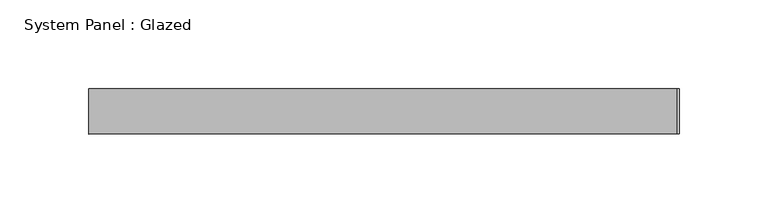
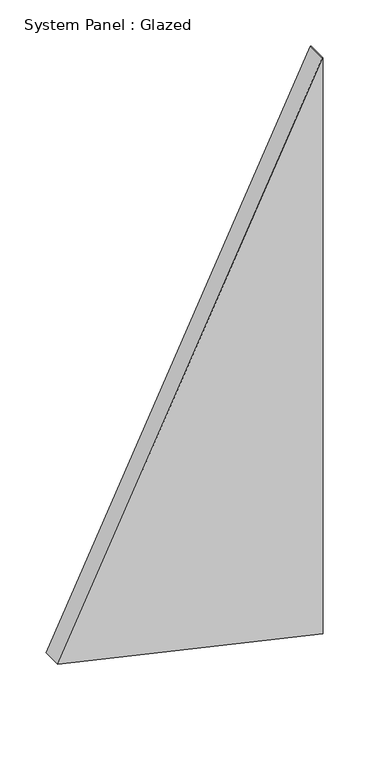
"""IFC4 building model written with IfcOpenShell, lengths in millimetres: plate geometry, System Panel : Glazed."""

from ifc_helpers import new_model, si_unit, frame, origin, place, context, project, spatial, polyline, outline, extrude, source, transform, mapped, element, save


def system_panel_glazed_c1cc0219(model_context):
    return source(origin(), model_context, "Body", "SweptSolid", [
        extrude(outline(polyline([(76.093957, -166.3528866), (0.0, 166.3488157), (762.8431207, 166.3528866), (763.0965383, 165.2448819), (76.093957, -166.3528866)])), frame((0.0, -44.45, 0.0), z_axis=(0.0, 1.0, 0.0), x_axis=(0.0, 0.0, 1.0)), (0.0, 0.0, 1.0), 25.4),
    ])


if __name__ == "__main__":
    model = new_model("IFC4")
    model_context = context("Model", 3, world=origin())
    ifc_project = project(units=[si_unit("LENGTHUNIT", "METRE", prefix="MILLI")], contexts=[model_context])
    site = spatial("IfcSite", under=ifc_project)
    building = spatial("IfcBuilding", under=site)
    placement = place(None, origin())
    system_panel_glazed_shape = system_panel_glazed_c1cc0219(model_context)
    element("IfcPlate", 1, ObjectType="System Panel : Glazed", at=placement, inside=building, context=model_context, shape_type="MappedRepresentation", body=[
        mapped(system_panel_glazed_shape, transform((0.0, 0.0, 0.0), x_axis=(1.0, 0.0, 0.0), y_axis=(0.0, 1.0, 0.0), z_axis=(0.0, 0.0, 1.0))),
    ])
    save(model, "model.ifc")
